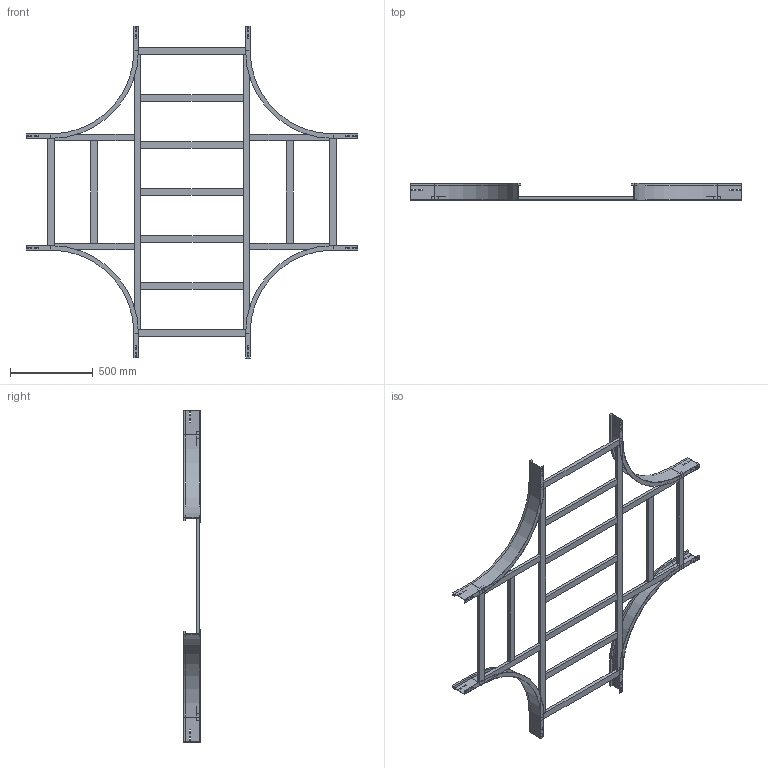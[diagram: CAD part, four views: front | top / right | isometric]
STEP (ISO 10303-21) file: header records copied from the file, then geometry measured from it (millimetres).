
FILE_DESCRIPTION (( 'STEP AP214' ), '1' );
FILE_NAME ('17B5D700.step', '2025-02-21T15:54:39', ( '' ), ( '' ), 'SwSTEP 2.0', 'SolidWorks 2023', '' );
FILE_SCHEMA (( 'AUTOMOTIVE_DESIGN' ));
Length unit declared in the file: millimetre
Products named in the file (7): TRAVERSINO_COPPIA_700; TRAVERSINO_INTERMEDIO_R500+700; TRAVERSINO_VERT_R500; LONGH.INTERNO 90°_H100_R500; 17B5D700; TRAVERSINO_LONG._R500+700; TRAVERSINO_700
Assembly tree (21 placements, depth 2):
  17B5D700
    LONGH.INTERNO 90°_H100_R500  x4
    TRAVERSINO_700  x4
    TRAVERSINO_LONG._R500+700  x2
    TRAVERSINO_INTERMEDIO_R500+700  x5
    TRAVERSINO_VERT_R500  x4
    TRAVERSINO_COPPIA_700  x2
Bounding box: 2000 x 100 x 2000 mm (x, y, z)
Volume: 11918353.6 mm3; surface area: 2768530.7 mm2
Topology: 21 solids, 21 shells, 334 faces, 812 edges, 520 vertices
Faces by surface type: plane 318, cylinder 16
Entity records: 2868 total; most frequent: CARTESIAN_POINT 460, DIRECTION 444, ORIENTED_EDGE 424, EDGE_CURVE 212, VECTOR 204, LINE 204, VERTEX_POINT 136, AXIS2_PLACEMENT_3D 120
